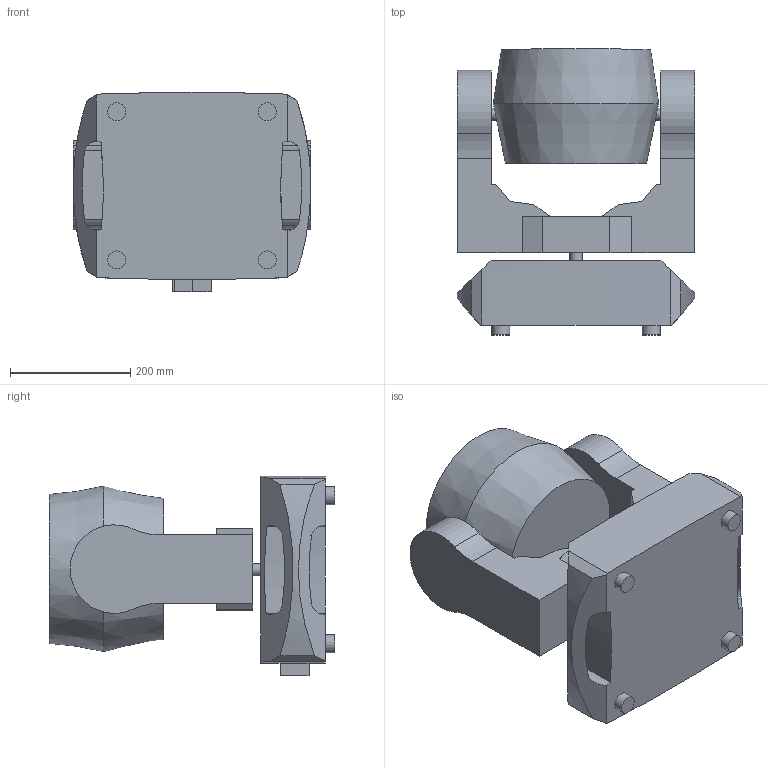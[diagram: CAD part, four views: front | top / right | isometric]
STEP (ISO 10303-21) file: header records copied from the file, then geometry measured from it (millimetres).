
FILE_DESCRIPTION(/* description */ (''),/* implementation_level */ '2;1');
FILE_NAME(/* name */ 'D:/dgooch/Documents/CADENG/PRO/MK Storm Wash/CAD_Simp/0/Maverick_Storm_1_Wash_0.step',/* time_stamp */ '2019-03-18T09:35:08-04:00',/* author */ (''),/* organization */ (''),/* preprocessor_version */ 'ST-DEVELOPER v17.2',/* originating_system */ 'Autodesk Translation Framework v7.6.0.251',/* authorisation */ '');
FILE_SCHEMA (('AUTOMOTIVE_DESIGN { 1 0 10303 214 3 1 1 }'));
Length unit declared in the file: millimetre
Products named in the file (4): Maverick_Storm_1_Wash; Head (1); Arms; Base
Assembly tree (3 placements, depth 2):
  Maverick_Storm_1_Wash
    Head (1)
    Arms
    Base
Bounding box: 395 x 474.82 x 330.91 mm (x, y, z)
Volume: 27152618.2 mm3; surface area: 1001242.2 mm2
Topology: 4 solids, 4 shells, 80 faces, 208 edges, 140 vertices
Faces by surface type: plane 48, cylinder 29, cone 2, bspline 1
Full cylindrical faces by diameter (mm): 20 x4, 30 x4, 219.973 x1
Entity records: 2686 total; most frequent: CARTESIAN_POINT 530, DIRECTION 444, ORIENTED_EDGE 416, EDGE_CURVE 208, AXIS2_PLACEMENT_3D 158, VERTEX_POINT 140, LINE 128, VECTOR 128
